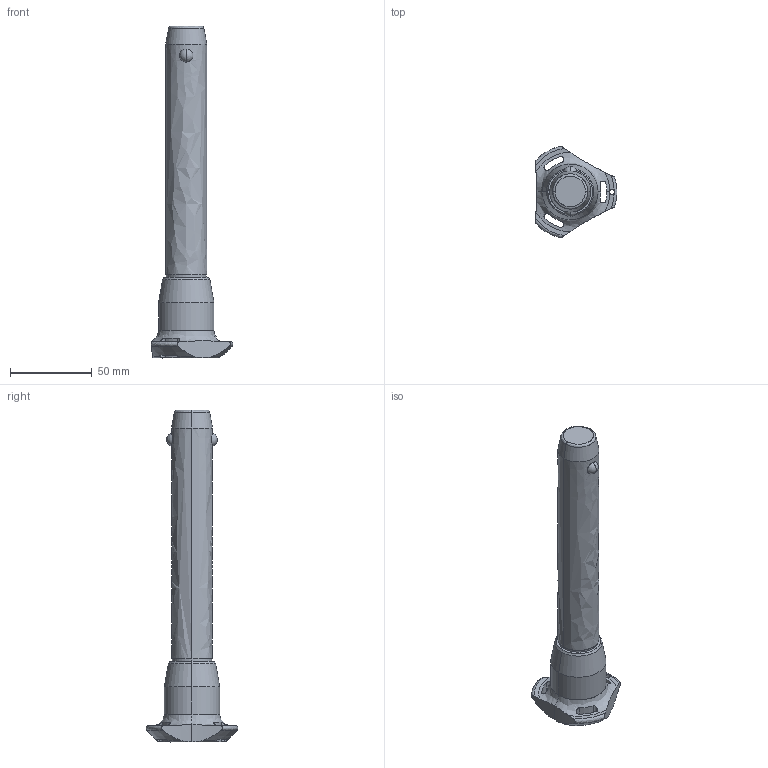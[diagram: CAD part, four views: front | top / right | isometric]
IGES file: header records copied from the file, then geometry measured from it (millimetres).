
Start section: SolidWorks IGES file using analytic representation for surfaces
Global section: file name: C:\Users\ianosborn\Desktop\QR1704_v2\QR1704_v2_20251111_IGES\QR1704.M25-130-S.igs; native system: SolidWorks 2019; preprocessor: SolidWorks 2019; author: IanOsborn; date: 251112.094114; units: millimetre
Bounding box: 50.03 x 56.02 x 202.7 mm (x, y, z)
Surface area: 21659.4 mm2 (no closed solid volume)
Topology: 0 solids, 0 shells, 65 faces, 1310 edges, 1306 vertices
Faces by surface type: revolution 50, bspline 15
